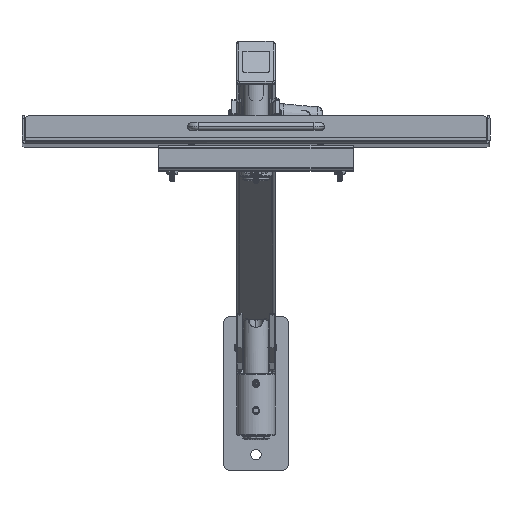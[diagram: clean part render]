
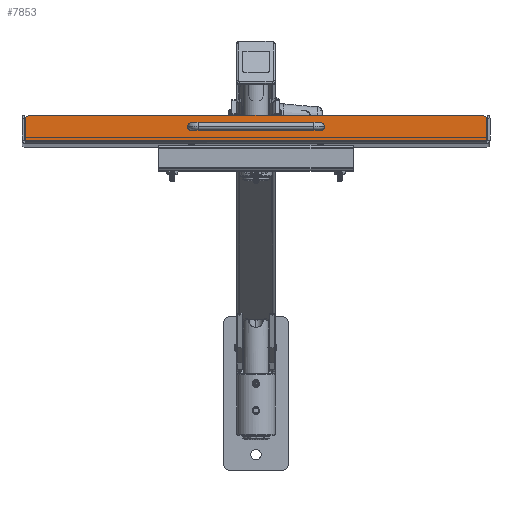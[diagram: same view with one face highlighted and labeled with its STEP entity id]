
A CAD part, top view. The second image highlights one B-rep face of the part: STEP entity #7853.
In plain terms, the highlighted planar face has unit normal (0, 0.011, 1) as drawn and (0, 0, 1) by its records, which use the part's own axes.
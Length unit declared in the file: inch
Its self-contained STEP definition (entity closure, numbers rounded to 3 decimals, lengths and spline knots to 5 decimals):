
#263 = DIRECTION ( 'NONE',  ( 0., 0., -1. ) ) ;
#987 = VECTOR ( 'NONE', #85961, 39.37008 ) ;
#3068 = VERTEX_POINT ( 'NONE', #57815 ) ;
#3528 = CARTESIAN_POINT ( 'NONE',  ( -8.75, 0.75, 6.09 ) ) ;
#4709 = AXIS2_PLACEMENT_3D ( 'NONE', #82749, #26816, #41896 ) ;
#5616 = CARTESIAN_POINT ( 'NONE',  ( 2.6005, 0.55, 6.09 ) ) ;
#5695 = EDGE_CURVE ( 'NONE', #24666, #23439, #30511, .T. ) ;
#6122 = LINE ( 'NONE', #26768, #9745 ) ;
#6236 = CIRCLE ( 'NONE', #4709, 0.1005 ) ;
#6740 = DIRECTION ( 'NONE',  ( 0., -1., 0. ) ) ;
#6841 = VERTEX_POINT ( 'NONE', #72260 ) ;
#7853 = ADVANCED_FACE ( 'NONE', ( #13636, #13178, #41579 ), #41122, .T. ) ;
#9745 = VECTOR ( 'NONE', #89121, 39.37008 ) ;
#9860 = ORIENTED_EDGE ( 'NONE', *, *, #5695, .F. ) ;
#10436 = AXIS2_PLACEMENT_3D ( 'NONE', #89299, #11811, #6740 ) ;
#10476 = ORIENTED_EDGE ( 'NONE', *, *, #40431, .T. ) ;
#11811 = DIRECTION ( 'NONE',  ( 0., 0., 1. ) ) ;
#13178 = FACE_OUTER_BOUND ( 'NONE', #74710, .T. ) ;
#13636 = FACE_BOUND ( 'NONE', #45867, .T. ) ;
#15807 = LINE ( 'NONE', #44663, #987 ) ;
#16503 = CARTESIAN_POINT ( 'NONE',  ( 8.75, 0.032, 6.09 ) ) ;
#16600 = CARTESIAN_POINT ( 'NONE',  ( -2.5, 0.55, 6.09 ) ) ;
#18119 = CARTESIAN_POINT ( 'NONE',  ( 8.75, 1., 6.09 ) ) ;
#18744 = EDGE_CURVE ( 'NONE', #23439, #28677, #34438, .T. ) ;
#21203 = AXIS2_PLACEMENT_3D ( 'NONE', #35073, #263, #28226 ) ;
#22013 = EDGE_CURVE ( 'NONE', #28677, #87986, #15807, .T. ) ;
#22227 = EDGE_CURVE ( 'NONE', #75635, #57902, #6122, .T. ) ;
#23439 = VERTEX_POINT ( 'NONE', #73241 ) ;
#24666 = VERTEX_POINT ( 'NONE', #45766 ) ;
#24773 = VECTOR ( 'NONE', #87806, 39.37008 ) ;
#25156 = CARTESIAN_POINT ( 'NONE',  ( -8.96464, 0.87817, 6.09 ) ) ;
#26024 = ORIENTED_EDGE ( 'NONE', *, *, #22013, .F. ) ;
#26713 = EDGE_CURVE ( 'NONE', #3068, #71473, #72462, .T. ) ;
#26768 = CARTESIAN_POINT ( 'NONE',  ( -8.96464, 0.75, 6.09 ) ) ;
#26816 = DIRECTION ( 'NONE',  ( 0., 0., -1. ) ) ;
#28226 = DIRECTION ( 'NONE',  ( -1., 0., 0. ) ) ;
#28630 = AXIS2_PLACEMENT_3D ( 'NONE', #39738, #62196, #74608 ) ;
#28677 = VERTEX_POINT ( 'NONE', #68000 ) ;
#28766 = CARTESIAN_POINT ( 'NONE',  ( -8.96464, 0.032, 6.09 ) ) ;
#30511 = LINE ( 'NONE', #18119, #24773 ) ;
#30704 = LINE ( 'NONE', #16503, #87252 ) ;
#30798 = DIRECTION ( 'NONE',  ( -1., 0., 0. ) ) ;
#31461 = ORIENTED_EDGE ( 'NONE', *, *, #74922, .T. ) ;
#33879 = ORIENTED_EDGE ( 'NONE', *, *, #18744, .F. ) ;
#34357 = EDGE_CURVE ( 'NONE', #71473, #3068, #6236, .T. ) ;
#34438 = CIRCLE ( 'NONE', #28630, 0.25 ) ;
#34812 = AXIS2_PLACEMENT_3D ( 'NONE', #3528, #59891, #37903 ) ;
#35073 = CARTESIAN_POINT ( 'NONE',  ( 2.5, 0.55, 6.09 ) ) ;
#35454 = ORIENTED_EDGE ( 'NONE', *, *, #34357, .T. ) ;
#37903 = DIRECTION ( 'NONE',  ( 0., -1., 0. ) ) ;
#39738 = CARTESIAN_POINT ( 'NONE',  ( 8.75, 0.75, 6.09 ) ) ;
#40431 = EDGE_CURVE ( 'NONE', #6841, #46745, #74670, .T. ) ;
#41121 = CIRCLE ( 'NONE', #87802, 0.1005 ) ;
#41122 = PLANE ( 'NONE',  #10436 ) ;
#41579 = FACE_BOUND ( 'NONE', #48684, .T. ) ;
#41896 = DIRECTION ( 'NONE',  ( -1., 0., 0. ) ) ;
#43420 = EDGE_CURVE ( 'NONE', #57902, #87986, #30704, .T. ) ;
#43592 = CIRCLE ( 'NONE', #34812, 0.25 ) ;
#44542 = DIRECTION ( 'NONE',  ( 0., 0., -1. ) ) ;
#44663 = CARTESIAN_POINT ( 'NONE',  ( 8.96464, 0.75, 6.09 ) ) ;
#45766 = CARTESIAN_POINT ( 'NONE',  ( -8.75, 1., 6.09 ) ) ;
#45867 = EDGE_LOOP ( 'NONE', ( #10476, #31461 ) ) ;
#46745 = VERTEX_POINT ( 'NONE', #75638 ) ;
#48684 = EDGE_LOOP ( 'NONE', ( #35454, #63810 ) ) ;
#53761 = CARTESIAN_POINT ( 'NONE',  ( 8.96464, 0.032, 6.09 ) ) ;
#55026 = DIRECTION ( 'NONE',  ( -1., 0., 0. ) ) ;
#56838 = CARTESIAN_POINT ( 'NONE',  ( -2.5, 0.55, 6.09 ) ) ;
#57815 = CARTESIAN_POINT ( 'NONE',  ( 2.3995, 0.55, 6.09 ) ) ;
#57902 = VERTEX_POINT ( 'NONE', #28766 ) ;
#58554 = AXIS2_PLACEMENT_3D ( 'NONE', #16600, #44542, #30798 ) ;
#59116 = DIRECTION ( 'NONE',  ( 1., 0., 0. ) ) ;
#59891 = DIRECTION ( 'NONE',  ( 0., 0., -1. ) ) ;
#62196 = DIRECTION ( 'NONE',  ( 0., 0., -1. ) ) ;
#63810 = ORIENTED_EDGE ( 'NONE', *, *, #26713, .T. ) ;
#68000 = CARTESIAN_POINT ( 'NONE',  ( 8.96464, 0.87817, 6.09 ) ) ;
#71473 = VERTEX_POINT ( 'NONE', #5616 ) ;
#72260 = CARTESIAN_POINT ( 'NONE',  ( -2.3995, 0.55, 6.09 ) ) ;
#72462 = CIRCLE ( 'NONE', #21203, 0.1005 ) ;
#73241 = CARTESIAN_POINT ( 'NONE',  ( 8.75, 1., 6.09 ) ) ;
#74608 = DIRECTION ( 'NONE',  ( 0., -1., 0. ) ) ;
#74670 = CIRCLE ( 'NONE', #58554, 0.1005 ) ;
#74710 = EDGE_LOOP ( 'NONE', ( #26024, #33879, #9860, #84180, #83680, #87718 ) ) ;
#74922 = EDGE_CURVE ( 'NONE', #46745, #6841, #41121, .T. ) ;
#75635 = VERTEX_POINT ( 'NONE', #25156 ) ;
#75638 = CARTESIAN_POINT ( 'NONE',  ( -2.6005, 0.55, 6.09 ) ) ;
#78742 = EDGE_CURVE ( 'NONE', #75635, #24666, #43592, .T. ) ;
#82749 = CARTESIAN_POINT ( 'NONE',  ( 2.5, 0.55, 6.09 ) ) ;
#83004 = DIRECTION ( 'NONE',  ( 0., 0., -1. ) ) ;
#83680 = ORIENTED_EDGE ( 'NONE', *, *, #22227, .T. ) ;
#84180 = ORIENTED_EDGE ( 'NONE', *, *, #78742, .F. ) ;
#85961 = DIRECTION ( 'NONE',  ( 0., -1., 0. ) ) ;
#87252 = VECTOR ( 'NONE', #59116, 39.37008 ) ;
#87718 = ORIENTED_EDGE ( 'NONE', *, *, #43420, .T. ) ;
#87802 = AXIS2_PLACEMENT_3D ( 'NONE', #56838, #83004, #55026 ) ;
#87806 = DIRECTION ( 'NONE',  ( 1., 0., 0. ) ) ;
#87986 = VERTEX_POINT ( 'NONE', #53761 ) ;
#89121 = DIRECTION ( 'NONE',  ( 0., -1., 0. ) ) ;
#89299 = CARTESIAN_POINT ( 'NONE',  ( 8.75, 0.75, 6.09 ) ) ;
